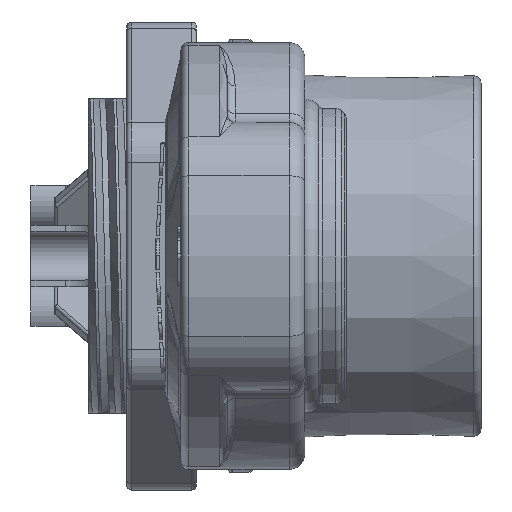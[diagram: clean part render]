
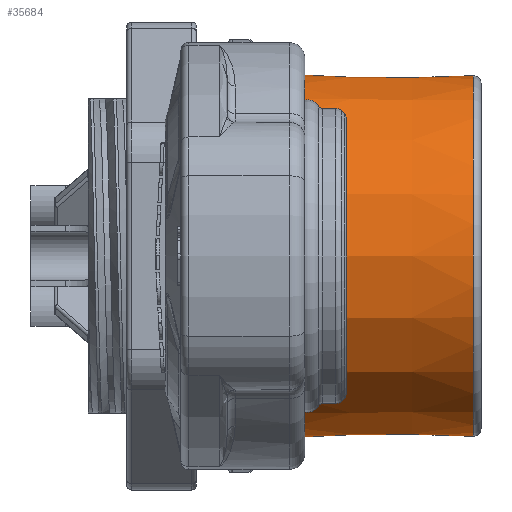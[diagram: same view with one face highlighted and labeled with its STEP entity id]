
A CAD part, front view. The second image highlights one B-rep face of the part: STEP entity #35684.
In plain terms, the highlighted conical face has half-angle 0.5 degrees and reference radius 11.65 mm.
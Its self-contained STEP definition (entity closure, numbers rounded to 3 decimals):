
#354 = EDGE_LOOP ( 'NONE', ( #50602, #33167, #30509, #39223, #4921, #15245, #36792, #36879 ) ) ;
#1239 = LINE ( 'NONE', #27842, #24884 ) ;
#1332 = EDGE_CURVE ( 'NONE', #8947, #11776, #42432, .T. ) ;
#2272 = CARTESIAN_POINT ( 'NONE',  ( -0.496, 8.855, -7.577 ) ) ;
#2454 = EDGE_CURVE ( 'NONE', #3723, #24931, #35170, .T. ) ;
#2942 = AXIS2_PLACEMENT_3D ( 'NONE', #26529, #50066, #45929 ) ;
#3396 = CARTESIAN_POINT ( 'NONE',  ( -12.477, 0.335, 11.759 ) ) ;
#3723 = VERTEX_POINT ( 'NONE', #48317 ) ;
#4921 = ORIENTED_EDGE ( 'NONE', *, *, #36002, .T. ) ;
#5649 = DIRECTION ( 'NONE',  ( 1., 0., 0. ) ) ;
#6130 = CARTESIAN_POINT ( 'NONE',  ( -12.462, 0.67, -11.744 ) ) ;
#7281 = LINE ( 'NONE', #27157, #27245 ) ;
#7535 = CARTESIAN_POINT ( 'NONE',  ( -0.496, 0., 0. ) ) ;
#8947 = VERTEX_POINT ( 'NONE', #22963 ) ;
#10000 = CARTESIAN_POINT ( 'NONE',  ( -12.404, -1.674, -11.643 ) ) ;
#10251 = CARTESIAN_POINT ( 'NONE',  ( -12.477, 0.335, -11.759 ) ) ;
#10430 = AXIS2_PLACEMENT_3D ( 'NONE', #48817, #5649, #21139 ) ;
#10485 = CARTESIAN_POINT ( 'NONE',  ( 0., 0., 0. ) ) ;
#10890 = CARTESIAN_POINT ( 'NONE',  ( -12.404, 2.007, 11.586 ) ) ;
#10893 = DIRECTION ( 'NONE',  ( 1., -0.007, 0.006 ) ) ;
#11144 = CARTESIAN_POINT ( 'NONE',  ( -12.404, -2.007, 11.586 ) ) ;
#11192 = CIRCLE ( 'NONE', #2942, 11.758 ) ;
#11402 = DIRECTION ( 'NONE',  ( -1., 0., 0. ) ) ;
#11590 = CARTESIAN_POINT ( 'NONE',  ( -12.404, 2.007, 11.586 ) ) ;
#11776 = VERTEX_POINT ( 'NONE', #11590 ) ;
#12956 = CARTESIAN_POINT ( 'NONE',  ( -0.496, 8.855, 7.577 ) ) ;
#13525 = CARTESIAN_POINT ( 'NONE',  ( -12.404, 0., 0. ) ) ;
#13877 = CARTESIAN_POINT ( 'NONE',  ( -12.404, 1.674, -11.643 ) ) ;
#13967 = VERTEX_POINT ( 'NONE', #32733 ) ;
#15028 = CARTESIAN_POINT ( 'NONE',  ( -12.425, -1.34, 11.687 ) ) ;
#15245 = ORIENTED_EDGE ( 'NONE', *, *, #15989, .T. ) ;
#15632 = EDGE_CURVE ( 'NONE', #28158, #3723, #23376, .T. ) ;
#15989 = EDGE_CURVE ( 'NONE', #13967, #28158, #11192, .T. ) ;
#16474 = DIRECTION ( 'NONE',  ( -1., 0.007, 0.006 ) ) ;
#16741 = CIRCLE ( 'NONE', #30781, 11.654 ) ;
#18394 = AXIS2_PLACEMENT_3D ( 'NONE', #10485, #26241, #42017 ) ;
#18397 = DIRECTION ( 'NONE',  ( 1., 0., 0. ) ) ;
#20605 = B_SPLINE_CURVE_WITH_KNOTS ( 'NONE', 3,
 ( #10890, #46063, #42686, #50449, #3396, #30521, #27154, #15028, #26648, #11144 ),
 .UNSPECIFIED., .F., .F.,
 ( 4, 2, 2, 2, 4 ),
 ( 0., 0.001, 0.002, 0.003, 0.004 ),
 .UNSPECIFIED. ) ;
#21139 = DIRECTION ( 'NONE',  ( 0., 0., 1. ) ) ;
#21611 = CARTESIAN_POINT ( 'NONE',  ( -12.425, 1.34, -11.687 ) ) ;
#21708 = CONICAL_SURFACE ( 'NONE', #18394, 11.65, 0.009 ) ;
#22199 = CARTESIAN_POINT ( 'NONE',  ( -12.404, 8.934, -7.645 ) ) ;
#22963 = CARTESIAN_POINT ( 'NONE',  ( -12.404, 8.934, 7.645 ) ) ;
#23376 = B_SPLINE_CURVE_WITH_KNOTS ( 'NONE', 3,
 ( #34011, #10000, #29370, #25748, #41023, #10251, #6130, #21611, #13877, #49295 ),
 .UNSPECIFIED., .F., .F.,
 ( 4, 2, 2, 2, 4 ),
 ( 0., 0.001, 0.002, 0.003, 0.004 ),
 .UNSPECIFIED. ) ;
#24884 = VECTOR ( 'NONE', #16474, 1000. ) ;
#24931 = VERTEX_POINT ( 'NONE', #22199 ) ;
#25748 = CARTESIAN_POINT ( 'NONE',  ( -12.462, -0.67, -11.744 ) ) ;
#26241 = DIRECTION ( 'NONE',  ( -1., 0., 0. ) ) ;
#26529 = CARTESIAN_POINT ( 'NONE',  ( -12.404, 0., 0. ) ) ;
#26648 = CARTESIAN_POINT ( 'NONE',  ( -12.404, -1.674, 11.643 ) ) ;
#26746 = AXIS2_PLACEMENT_3D ( 'NONE', #13525, #18397, #33647 ) ;
#27154 = CARTESIAN_POINT ( 'NONE',  ( -12.462, -0.67, 11.744 ) ) ;
#27157 = CARTESIAN_POINT ( 'NONE',  ( 0., 8.851, -7.575 ) ) ;
#27245 = VECTOR ( 'NONE', #10893, 1000. ) ;
#27842 = CARTESIAN_POINT ( 'NONE',  ( 0., 8.851, 7.575 ) ) ;
#28158 = VERTEX_POINT ( 'NONE', #31991 ) ;
#29370 = CARTESIAN_POINT ( 'NONE',  ( -12.425, -1.34, -11.687 ) ) ;
#30108 = FACE_OUTER_BOUND ( 'NONE', #354, .T. ) ;
#30509 = ORIENTED_EDGE ( 'NONE', *, *, #50862, .T. ) ;
#30521 = CARTESIAN_POINT ( 'NONE',  ( -12.477, -0.335, 11.759 ) ) ;
#30781 = AXIS2_PLACEMENT_3D ( 'NONE', #7535, #11402, #34658 ) ;
#31991 = CARTESIAN_POINT ( 'NONE',  ( -12.404, -2.007, -11.586 ) ) ;
#32733 = CARTESIAN_POINT ( 'NONE',  ( -12.404, -2.007, 11.586 ) ) ;
#33167 = ORIENTED_EDGE ( 'NONE', *, *, #35980, .T. ) ;
#33647 = DIRECTION ( 'NONE',  ( 0., 0., 1. ) ) ;
#34011 = CARTESIAN_POINT ( 'NONE',  ( -12.404, -2.007, -11.586 ) ) ;
#34658 = DIRECTION ( 'NONE',  ( 0., 0., -1. ) ) ;
#35170 = CIRCLE ( 'NONE', #10430, 11.758 ) ;
#35684 = ADVANCED_FACE ( 'NONE', ( #30108 ), #21708, .T. ) ;
#35980 = EDGE_CURVE ( 'NONE', #38575, #40022, #16741, .T. ) ;
#36002 = EDGE_CURVE ( 'NONE', #11776, #13967, #20605, .T. ) ;
#36792 = ORIENTED_EDGE ( 'NONE', *, *, #15632, .T. ) ;
#36879 = ORIENTED_EDGE ( 'NONE', *, *, #2454, .T. ) ;
#38575 = VERTEX_POINT ( 'NONE', #2272 ) ;
#39223 = ORIENTED_EDGE ( 'NONE', *, *, #1332, .T. ) ;
#40022 = VERTEX_POINT ( 'NONE', #12956 ) ;
#41023 = CARTESIAN_POINT ( 'NONE',  ( -12.477, -0.335, -11.759 ) ) ;
#42017 = DIRECTION ( 'NONE',  ( 0., 0., 1. ) ) ;
#42432 = CIRCLE ( 'NONE', #26746, 11.758 ) ;
#42686 = CARTESIAN_POINT ( 'NONE',  ( -12.425, 1.34, 11.687 ) ) ;
#45929 = DIRECTION ( 'NONE',  ( 0., 0., 1. ) ) ;
#46063 = CARTESIAN_POINT ( 'NONE',  ( -12.404, 1.674, 11.643 ) ) ;
#47886 = EDGE_CURVE ( 'NONE', #24931, #38575, #7281, .T. ) ;
#48317 = CARTESIAN_POINT ( 'NONE',  ( -12.404, 2.007, -11.586 ) ) ;
#48817 = CARTESIAN_POINT ( 'NONE',  ( -12.404, 0., 0. ) ) ;
#49295 = CARTESIAN_POINT ( 'NONE',  ( -12.404, 2.007, -11.586 ) ) ;
#50066 = DIRECTION ( 'NONE',  ( 1., 0., 0. ) ) ;
#50449 = CARTESIAN_POINT ( 'NONE',  ( -12.462, 0.67, 11.744 ) ) ;
#50602 = ORIENTED_EDGE ( 'NONE', *, *, #47886, .T. ) ;
#50862 = EDGE_CURVE ( 'NONE', #40022, #8947, #1239, .T. ) ;
